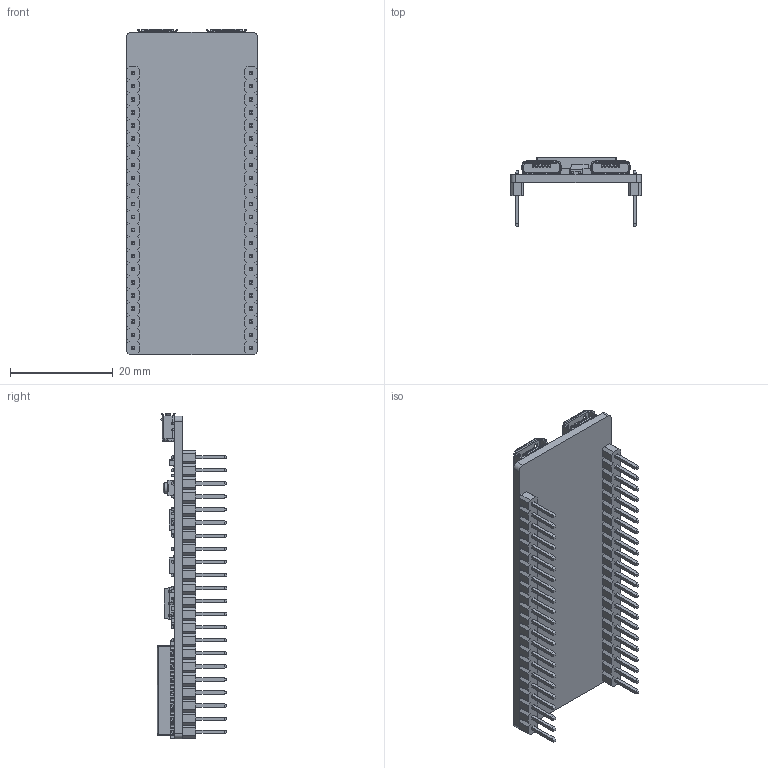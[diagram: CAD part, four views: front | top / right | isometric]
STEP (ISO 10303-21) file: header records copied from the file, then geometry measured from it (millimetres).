
FILE_DESCRIPTION (( 'STEP AP214' ), '1' );
FILE_NAME ('ESP32-S3-DEVKITC-1U-N8R2.STEP', '2024-01-18T18:19:22', ( '' ), ( '' ), 'SwSTEP 2.0', 'SolidWorks 2021', '' );
FILE_SCHEMA (( 'AUTOMOTIVE_DESIGN' ));
Length unit declared in the file: millimetre
Products named in the file (1): ESP32-S3-DEVKITC-1U-N8R2
Bounding box: 25.4 x 13.49 x 63.33 mm (x, y, z)
Volume: 3862.8 mm3; surface area: 9191.2 mm2
Topology: 268 solids, 268 shells, 4236 faces, 10330 edges, 6635 vertices
Faces by surface type: plane 3746, cylinder 424, bspline 30, cone 30, torus 4, sphere 2
Entity records: 124629 total; most frequent: CARTESIAN_POINT 21954, ORIENTED_EDGE 20654, DIRECTION 19488, EDGE_CURVE 10327, VECTOR 9352, LINE 9352, VERTEX_POINT 6634, AXIS2_PLACEMENT_3D 5068
